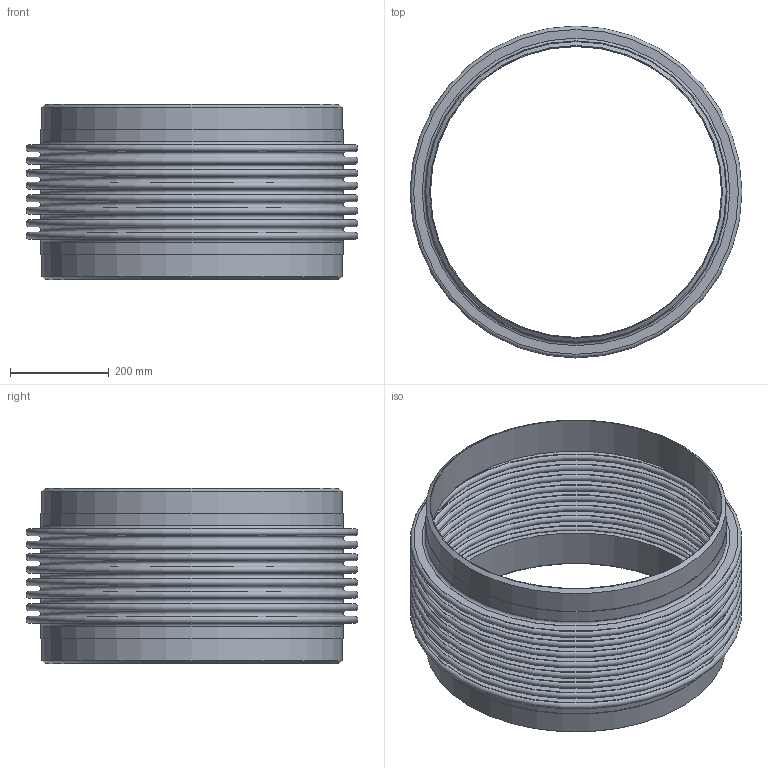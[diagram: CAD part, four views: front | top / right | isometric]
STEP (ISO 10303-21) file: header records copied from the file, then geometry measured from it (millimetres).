
FILE_DESCRIPTION(/* description */ (''),/* implementation_level */ '2;1');
FILE_NAME(/* name */ 'PIPE- 24- 150 PSIG ASSEMBLY PART.stp',/* time_stamp */ '2026-07-24T15:38:51-05:00',/* author */ ('jorgef'),/* organization */ (''),/* preprocessor_version */ 'ST-DEVELOPER v20.1',/* originating_system */ 'Autodesk Inventor 2026',/* authorisation */ '');
FILE_SCHEMA (('AUTOMOTIVE_DESIGN { 1 0 10303 214 3 1 1 }'));
Length unit declared in the file: inch
Products named in the file (1): PIPE- 24- 150 PSIG ASSEMBLY PART
Bounding box: 673.1 x 673.1 x 355.6 mm (x, y, z)
Volume: 4634583.7 mm3; surface area: 3053485.6 mm2
Topology: 1 solids, 1 shells, 80 faces, 126 edges, 84 vertices
Faces by surface type: plane 38, torus 34, cylinder 6, cone 2
Full cylindrical faces by diameter (mm): 590.55 x2, 609.6 x2, 612.648 x2
Entity records: 2035 total; most frequent: DIRECTION 406, CARTESIAN_POINT 291, ORIENTED_EDGE 252, AXIS2_PLACEMENT_3D 199, EDGE_CURVE 126, EDGE_LOOP 118, CIRCLE 118, VERTEX_POINT 84
